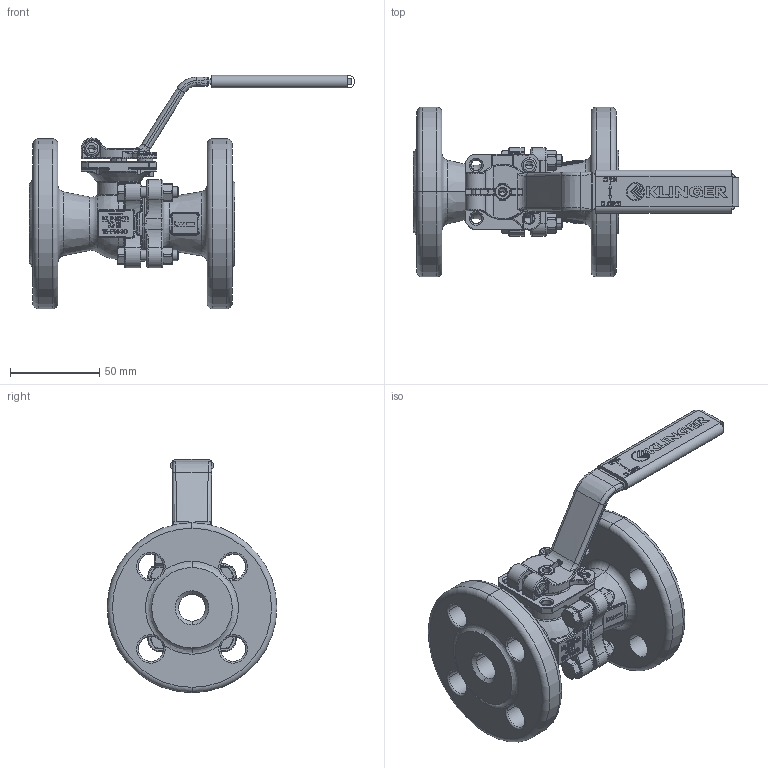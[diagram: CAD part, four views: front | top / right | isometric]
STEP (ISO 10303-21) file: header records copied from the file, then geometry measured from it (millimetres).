
FILE_DESCRIPTION((''),'2;1');
FILE_NAME('KHEFK015VFK015P040PKK','2015-08-07T',('mahrhauserh'),('RAND'),'PRO/ENGINEER BY PARAMETRIC TECHNOLOGY CORPORATION, 2013410','PRO/ENGINEER BY PARAMETRIC TECHNOLOGY CORPORATION, 2013410','');
FILE_SCHEMA(('CONFIG_CONTROL_DESIGN'));
Products named in the file (1): KHEFK015VFK015P040PKK
Bounding box: 182 x 95 x 130.55 mm (x, y, z)
Volume: 301536.5 mm3; surface area: 86421.1 mm2
Topology: 1 solids, 2 shells, 3024 faces, 7828 edges, 4899 vertices
Faces by surface type: plane 1690, cylinder 484, bspline 330, torus 272, cone 202, sphere 46
Entity records: 122546 total; most frequent: CARTESIAN_POINT 50429, ORIENTED_EDGE 15628, DIRECTION 14209, EDGE_CURVE 7814, VECTOR 4937, LINE 4937, VERTEX_POINT 4899, AXIS2_PLACEMENT_3D 4636
